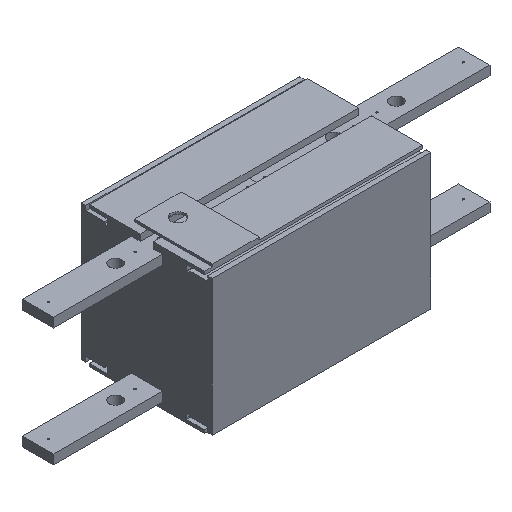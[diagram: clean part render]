
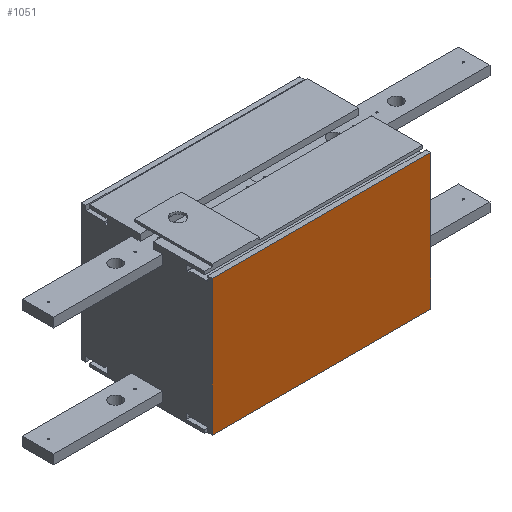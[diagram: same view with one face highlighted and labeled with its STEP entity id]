
A CAD part, isometric view. The second image highlights one B-rep face of the part: STEP entity #1051.
In plain terms, the highlighted planar face has unit normal (0, -1, 0).
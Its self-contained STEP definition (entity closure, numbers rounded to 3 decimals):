
#177 = EDGE_CURVE ( 'NONE', #2030, #2057, #3058, .T. ) ;
#178 = EDGE_CURVE ( 'NONE', #2044, #2041, #3060, .T. ) ;
#341 = EDGE_CURVE ( 'NONE', #2041, #2057, #3374, .T. ) ;
#374 = EDGE_CURVE ( 'Edge12', #2044, #2030, #3390, .T. ) ;
#744 = EDGE_LOOP ( 'NONE', ( #2589, #2587, #2585, #2583 ) ) ;
#1051 = ADVANCED_FACE ( 'NONE', ( #3503 ), #3944, .F. ) ;
#1454 = CARTESIAN_POINT ( 'NONE',  ( 70., -42., -43.5 ) ) ;
#1456 = CARTESIAN_POINT ( 'NONE',  ( 70., -42., 43.5 ) ) ;
#1459 = DIRECTION ( 'NONE',  ( -1., 0., 0. ) ) ;
#1461 = DIRECTION ( 'NONE',  ( -1., 0., 0. ) ) ;
#1767 = CARTESIAN_POINT ( 'NONE',  ( 70., -42., -43.5 ) ) ;
#1800 = CARTESIAN_POINT ( 'NONE',  ( -70., -42., -43.5 ) ) ;
#1801 = DIRECTION ( 'NONE',  ( 0., 0., -1. ) ) ;
#1866 = DIRECTION ( 'NONE',  ( 0., 0., -1. ) ) ;
#2030 = VERTEX_POINT ( 'NONE', #4743 ) ;
#2041 = VERTEX_POINT ( 'NONE', #4754 ) ;
#2044 = VERTEX_POINT ( 'NONE', #4757 ) ;
#2057 = VERTEX_POINT ( 'NONE', #4770 ) ;
#2583 = ORIENTED_EDGE ( 'NONE', *, *, #374, .F. ) ;
#2585 = ORIENTED_EDGE ( 'NONE', *, *, #177, .F. ) ;
#2587 = ORIENTED_EDGE ( 'NONE', *, *, #341, .T. ) ;
#2589 = ORIENTED_EDGE ( 'NONE', *, *, #178, .T. ) ;
#3058 = LINE ( 'NONE', #1454, #3063 ) ;
#3060 = LINE ( 'NONE', #1456, #3065 ) ;
#3063 = VECTOR ( 'NONE', #1459, 1000. ) ;
#3065 = VECTOR ( 'NONE', #1461, 1000. ) ;
#3374 = LINE ( 'NONE', #1800, #3377 ) ;
#3377 = VECTOR ( 'NONE', #1801, 1000. ) ;
#3390 = LINE ( 'NONE', #1767, #3443 ) ;
#3443 = VECTOR ( 'NONE', #1866, 1000. ) ;
#3503 = FACE_OUTER_BOUND ( 'NONE', #744, .T. ) ;
#3944 = PLANE ( 'NONE',  #4321 ) ;
#3945 = CARTESIAN_POINT ( 'NONE',  ( 70., -42., -43.5 ) ) ;
#3950 = DIRECTION ( 'NONE',  ( 0., 1., 0. ) ) ;
#3951 = DIRECTION ( 'NONE',  ( 0., 0., 1. ) ) ;
#4321 = AXIS2_PLACEMENT_3D ( 'NONE', #3945, #3950, #3951 ) ;
#4743 = CARTESIAN_POINT ( 'NONE',  ( 70., -42., -43.5 ) ) ;
#4754 = CARTESIAN_POINT ( 'NONE',  ( -70., -42., 43.5 ) ) ;
#4757 = CARTESIAN_POINT ( 'NONE',  ( 70., -42., 43.5 ) ) ;
#4770 = CARTESIAN_POINT ( 'NONE',  ( -70., -42., -43.5 ) ) ;
